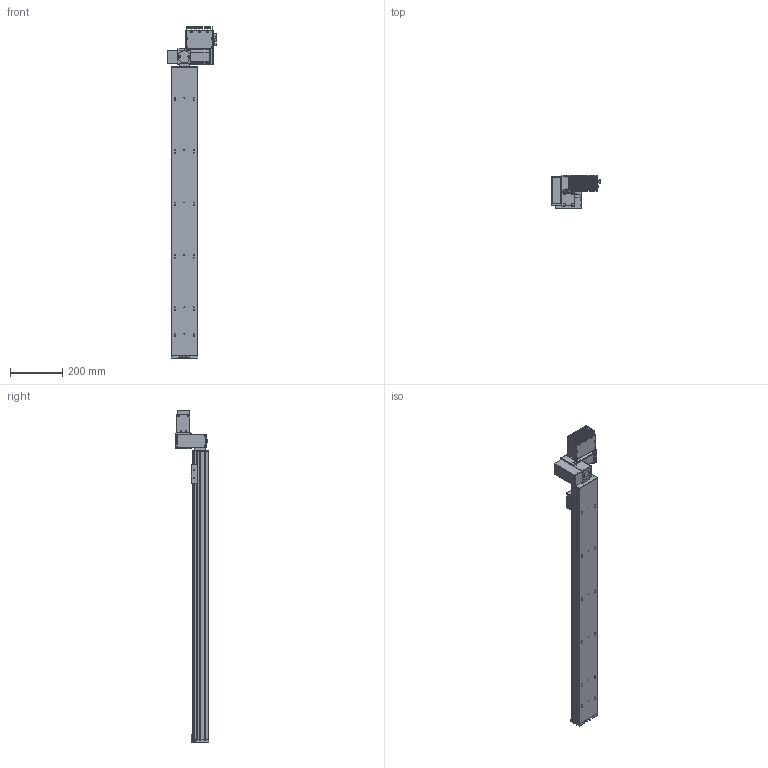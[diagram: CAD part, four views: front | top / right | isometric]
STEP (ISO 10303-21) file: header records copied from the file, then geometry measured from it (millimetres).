
FILE_DESCRIPTION (( 'STEP AP203' ), '1' );
FILE_NAME ('S10 TBN LT S1100.STEP', '2012-06-19T09:47:39', ( 'Conseil Régional Haute-Normandie' ), ( 'Conseil Régional Haute-Normandie' ), 'SwSTEP 2.0', 'SolidWorks 2010', '' );
FILE_SCHEMA (( 'CONFIG_CONTROL_DESIGN' ));
Length unit declared in the file: millimetre
Products named in the file (26): axe 1100; cache t皻e axe_Default; vis M5 L5_Default; renvoi LH_Default; Colonnette_3; Sub D 9cts 90_X2_00B_X0__3; BU45 Carte d''axe A11_5; Connecteur rond D12 4cts_5; Radiateur profil_X2_00E9_X0_ 100x25_3; S10 TBN LT S1100; embout; palette tbn; cache t皻e_Default; Copie de plaque de bout s10_Default^S10 TBN LT S1100; Plaque racord_Default; Assem1_7; T_X2_00F4_X0_le contre le moteur_5; BU41 Carte Alimentation P05_3; Moteur 60BLDC90A_3; Couvercle_3; T_X2_00F4_X0_le fond_3; Connecteur rond D10 3cts_5; Colonnette ronde_3; T_X2_00F4_X0_le Arri_X2_00E8_X0_re_5; T_X2_00F4_X0_le lat_X2_00E9_X0_rale_5; Vis TF 3 torkx_1_1
Assembly tree (52 placements, depth 3):
  S10 TBN LT S1100
    cache t皻e axe_Default
    vis M5 L5_Default  x4
    cache t皻e_Default  x2
    Assem1_7
      Colonnette_3  x2
      Colonnette ronde_3
      Vis TF 3 torkx_1_1  x21
      Connecteur rond D12 4cts_5
      T_X2_00F4_X0_le contre le moteur_5
      BU41 Carte Alimentation P05_3
      T_X2_00F4_X0_le fond_3
      T_X2_00F4_X0_le lat_X2_00E9_X0_rale_5  x2
      T_X2_00F4_X0_le Arri_X2_00E8_X0_re_5
      Moteur 60BLDC90A_3
      Connecteur rond D10 3cts_5  x2
      Radiateur profil_X2_00E9_X0_ 100x25_3
      BU45 Carte d''axe A11_5
      Sub D 9cts 90_X2_00B_X0__3
      Couvercle_3
    Plaque racord_Default
    axe 1100
    embout
    Copie de plaque de bout s10_Default^S10 TBN LT S1100
    renvoi LH_Default
    palette tbn
Bounding box: 186.1 x 127 x 1266.5 mm (x, y, z)
Volume: 6546893.2 mm3; surface area: 841527.8 mm2
Topology: 51 solids, 51 shells, 2033 faces, 5143 edges, 3342 vertices
Faces by surface type: plane 930, cylinder 926, cone 154, bspline 20, torus 3
Entity records: 44497 total; most frequent: CARTESIAN_POINT 8066, DIRECTION 7218, ORIENTED_EDGE 6582, EDGE_CURVE 3291, AXIS2_PLACEMENT_3D 2683, VERTEX_POINT 2156, LINE 1852, VECTOR 1852
